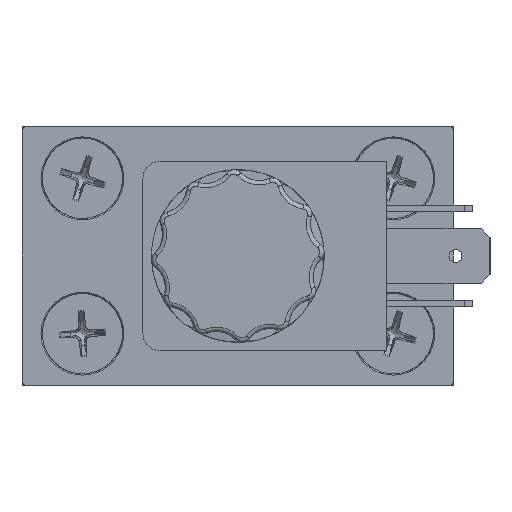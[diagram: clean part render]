
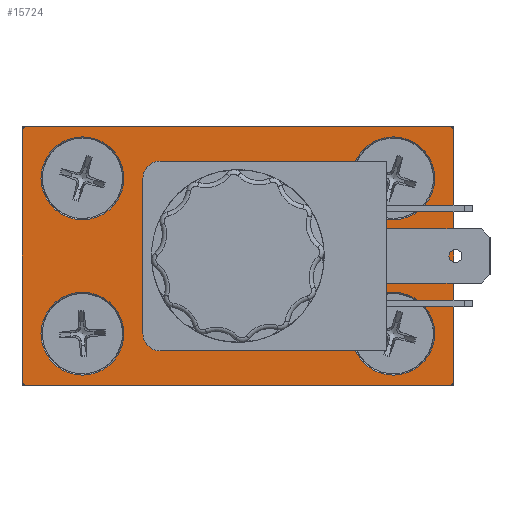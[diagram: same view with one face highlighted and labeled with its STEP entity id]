
A CAD part, left-side view. The second image highlights one B-rep face of the part: STEP entity #15724.
In plain terms, the highlighted planar face has unit normal (-1, 0, 0).
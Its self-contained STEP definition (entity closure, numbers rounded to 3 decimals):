
#158 = CIRCLE ( 'NONE', #37423, 4.8 ) ;
#233 = CIRCLE ( 'NONE', #37425, 4.8 ) ;
#310 = CIRCLE ( 'NONE', #37433, 0.5 ) ;
#325 = CIRCLE ( 'NONE', #37436, 4.8 ) ;
#429 = CIRCLE ( 'NONE', #37438, 0.5 ) ;
#433 = CIRCLE ( 'NONE', #37437, 4.55 ) ;
#470 = LINE ( 'NONE', #1658, #475 ) ;
#475 = VECTOR ( 'NONE', #1659, 1000. ) ;
#517 = CIRCLE ( 'NONE', #37450, 0.5 ) ;
#542 = LINE ( 'NONE', #1742, #544 ) ;
#544 = VECTOR ( 'NONE', #1745, 1000. ) ;
#547 = LINE ( 'NONE', #1781, #550 ) ;
#550 = VECTOR ( 'NONE', #1782, 1000. ) ;
#712 = CIRCLE ( 'NONE', #37461, 4.8 ) ;
#731 = CIRCLE ( 'NONE', #37470, 0.5 ) ;
#888 = LINE ( 'NONE', #2163, #903 ) ;
#903 = VECTOR ( 'NONE', #2164, 1000. ) ;
#1289 = CARTESIAN_POINT ( 'NONE',  ( -60.5, -18., 24. ) ) ;
#1290 = DIRECTION ( 'NONE',  ( 1., 0., 0. ) ) ;
#1291 = DIRECTION ( 'NONE',  ( 0., -1., 0. ) ) ;
#1366 = CARTESIAN_POINT ( 'NONE',  ( -60.5, 18., 24. ) ) ;
#1371 = DIRECTION ( 'NONE',  ( 1., 0., 0. ) ) ;
#1372 = DIRECTION ( 'NONE',  ( 0., -1., 0. ) ) ;
#1453 = CARTESIAN_POINT ( 'NONE',  ( -60.5, 24.5, 29.5 ) ) ;
#1459 = DIRECTION ( 'NONE',  ( 1., 0., 0. ) ) ;
#1460 = DIRECTION ( 'NONE',  ( 0., 0.707, 0.707 ) ) ;
#1477 = CARTESIAN_POINT ( 'NONE',  ( -60.5, -18., 6. ) ) ;
#1480 = DIRECTION ( 'NONE',  ( 1., 0., 0. ) ) ;
#1481 = DIRECTION ( 'NONE',  ( 0., -1., 0. ) ) ;
#1600 = CARTESIAN_POINT ( 'NONE',  ( -60.5, -24.5, 29.5 ) ) ;
#1602 = DIRECTION ( 'NONE',  ( 1., 0., 0. ) ) ;
#1603 = DIRECTION ( 'NONE',  ( 0., -0.707, 0.707 ) ) ;
#1605 = CARTESIAN_POINT ( 'NONE',  ( -60.5, 0., 15. ) ) ;
#1606 = DIRECTION ( 'NONE',  ( 1., 0., 0. ) ) ;
#1607 = DIRECTION ( 'NONE',  ( 0., 1., 0. ) ) ;
#1658 = CARTESIAN_POINT ( 'NONE',  ( -60.5, 25., 0.5 ) ) ;
#1659 = DIRECTION ( 'NONE',  ( 0., 0., 1. ) ) ;
#1695 = CARTESIAN_POINT ( 'NONE',  ( -60.5, 24.5, 0.5 ) ) ;
#1704 = DIRECTION ( 'NONE',  ( 1., 0., 0. ) ) ;
#1705 = DIRECTION ( 'NONE',  ( 0., 0.707, -0.707 ) ) ;
#1742 = CARTESIAN_POINT ( 'NONE',  ( -60.5, 24.5, 30. ) ) ;
#1745 = DIRECTION ( 'NONE',  ( 0., -1., 0. ) ) ;
#1781 = CARTESIAN_POINT ( 'NONE',  ( -60.5, -24.5, 0. ) ) ;
#1782 = DIRECTION ( 'NONE',  ( 0., 1., 0. ) ) ;
#1924 = CARTESIAN_POINT ( 'NONE',  ( -60.5, 18., 6. ) ) ;
#1934 = DIRECTION ( 'NONE',  ( 1., 0., 0. ) ) ;
#1935 = DIRECTION ( 'NONE',  ( 0., -1., 0. ) ) ;
#1956 = CARTESIAN_POINT ( 'NONE',  ( -60.5, -24.5, 0.5 ) ) ;
#1963 = DIRECTION ( 'NONE',  ( 1., 0., 0. ) ) ;
#1964 = DIRECTION ( 'NONE',  ( 0., -0.707, -0.707 ) ) ;
#2163 = CARTESIAN_POINT ( 'NONE',  ( -60.5, -25., 29.5 ) ) ;
#2164 = DIRECTION ( 'NONE',  ( 0., 0., -1. ) ) ;
#3609 = FACE_OUTER_BOUND ( 'NONE', #34425, .T. ) ;
#3610 = FACE_BOUND ( 'NONE', #34612, .T. ) ;
#3615 = FACE_BOUND ( 'NONE', #34609, .T. ) ;
#3616 = FACE_BOUND ( 'NONE', #34619, .T. ) ;
#3618 = FACE_BOUND ( 'NONE', #34617, .T. ) ;
#3620 = FACE_BOUND ( 'NONE', #34615, .T. ) ;
#4063 = CARTESIAN_POINT ( 'NONE',  ( -60.5, 0., 15. ) ) ;
#4064 = PLANE ( 'NONE',  #37579 ) ;
#4073 = DIRECTION ( 'NONE',  ( -1., 0., 0. ) ) ;
#4074 = DIRECTION ( 'NONE',  ( 0., 0.707, 0.707 ) ) ;
#14515 = EDGE_CURVE ( 'NONE', #43091, #43091, #158, .T. ) ;
#14554 = EDGE_CURVE ( 'NONE', #43096, #43096, #233, .T. ) ;
#14595 = EDGE_CURVE ( 'NONE', #36148, #35047, #310, .T. ) ;
#14604 = EDGE_CURVE ( 'NONE', #43100, #43100, #325, .T. ) ;
#14661 = EDGE_CURVE ( 'NONE', #36121, #36123, #429, .T. ) ;
#14663 = EDGE_CURVE ( 'NONE', #43106, #43106, #433, .T. ) ;
#14687 = EDGE_CURVE ( 'NONE', #36141, #36148, #470, .T. ) ;
#14708 = EDGE_CURVE ( 'NONE', #36149, #36141, #517, .T. ) ;
#14726 = EDGE_CURVE ( 'NONE', #35047, #36121, #542, .T. ) ;
#14743 = EDGE_CURVE ( 'NONE', #36151, #36149, #547, .T. ) ;
#14815 = EDGE_CURVE ( 'NONE', #43128, #43128, #712, .T. ) ;
#14827 = EDGE_CURVE ( 'NONE', #36153, #36151, #731, .T. ) ;
#14920 = EDGE_CURVE ( 'NONE', #36123, #36153, #888, .T. ) ;
#15724 = ADVANCED_FACE ( 'NONE', ( #3609, #3616, #3618, #3620, #3610, #3615 ), #4064, .T. ) ;
#31453 = ORIENTED_EDGE ( 'NONE', *, *, #14661, .F. ) ;
#31454 = ORIENTED_EDGE ( 'NONE', *, *, #14726, .F. ) ;
#31455 = ORIENTED_EDGE ( 'NONE', *, *, #14595, .F. ) ;
#31456 = ORIENTED_EDGE ( 'NONE', *, *, #14687, .F. ) ;
#31457 = ORIENTED_EDGE ( 'NONE', *, *, #14708, .F. ) ;
#31458 = ORIENTED_EDGE ( 'NONE', *, *, #14743, .F. ) ;
#31459 = ORIENTED_EDGE ( 'NONE', *, *, #14827, .F. ) ;
#31460 = ORIENTED_EDGE ( 'NONE', *, *, #14920, .F. ) ;
#31461 = ORIENTED_EDGE ( 'NONE', *, *, #14604, .T. ) ;
#31462 = ORIENTED_EDGE ( 'NONE', *, *, #14554, .T. ) ;
#31463 = ORIENTED_EDGE ( 'NONE', *, *, #14515, .T. ) ;
#31464 = ORIENTED_EDGE ( 'NONE', *, *, #14815, .T. ) ;
#31465 = ORIENTED_EDGE ( 'NONE', *, *, #14663, .T. ) ;
#34425 = EDGE_LOOP ( 'NONE', ( #31453, #31454, #31455, #31456, #31457, #31458, #31459, #31460 ) ) ;
#34609 = EDGE_LOOP ( 'NONE', ( #31465 ) ) ;
#34612 = EDGE_LOOP ( 'NONE', ( #31464 ) ) ;
#34615 = EDGE_LOOP ( 'NONE', ( #31463 ) ) ;
#34617 = EDGE_LOOP ( 'NONE', ( #31462 ) ) ;
#34619 = EDGE_LOOP ( 'NONE', ( #31461 ) ) ;
#35047 = VERTEX_POINT ( 'NONE', #40119 ) ;
#36121 = VERTEX_POINT ( 'NONE', #40177 ) ;
#36123 = VERTEX_POINT ( 'NONE', #40178 ) ;
#36141 = VERTEX_POINT ( 'NONE', #40189 ) ;
#36148 = VERTEX_POINT ( 'NONE', #40193 ) ;
#36149 = VERTEX_POINT ( 'NONE', #40194 ) ;
#36151 = VERTEX_POINT ( 'NONE', #40195 ) ;
#36153 = VERTEX_POINT ( 'NONE', #40196 ) ;
#37423 = AXIS2_PLACEMENT_3D ( 'NONE', #1289, #1290, #1291 ) ;
#37425 = AXIS2_PLACEMENT_3D ( 'NONE', #1366, #1371, #1372 ) ;
#37433 = AXIS2_PLACEMENT_3D ( 'NONE', #1453, #1459, #1460 ) ;
#37436 = AXIS2_PLACEMENT_3D ( 'NONE', #1477, #1480, #1481 ) ;
#37437 = AXIS2_PLACEMENT_3D ( 'NONE', #1605, #1606, #1607 ) ;
#37438 = AXIS2_PLACEMENT_3D ( 'NONE', #1600, #1602, #1603 ) ;
#37450 = AXIS2_PLACEMENT_3D ( 'NONE', #1695, #1704, #1705 ) ;
#37461 = AXIS2_PLACEMENT_3D ( 'NONE', #1924, #1934, #1935 ) ;
#37470 = AXIS2_PLACEMENT_3D ( 'NONE', #1956, #1963, #1964 ) ;
#37579 = AXIS2_PLACEMENT_3D ( 'NONE', #4063, #4073, #4074 ) ;
#40119 = CARTESIAN_POINT ( 'NONE',  ( -60.5, 24.5, 30. ) ) ;
#40177 = CARTESIAN_POINT ( 'NONE',  ( -60.5, -24.5, 30. ) ) ;
#40178 = CARTESIAN_POINT ( 'NONE',  ( -60.5, -25., 29.5 ) ) ;
#40189 = CARTESIAN_POINT ( 'NONE',  ( -60.5, 25., 0.5 ) ) ;
#40193 = CARTESIAN_POINT ( 'NONE',  ( -60.5, 25., 29.5 ) ) ;
#40194 = CARTESIAN_POINT ( 'NONE',  ( -60.5, 24.5, 0. ) ) ;
#40195 = CARTESIAN_POINT ( 'NONE',  ( -60.5, -24.5, 0. ) ) ;
#40196 = CARTESIAN_POINT ( 'NONE',  ( -60.5, -25., 0.5 ) ) ;
#43082 = CARTESIAN_POINT ( 'NONE',  ( -60.5, -22.8, 24. ) ) ;
#43091 = VERTEX_POINT ( 'NONE', #43082 ) ;
#43096 = VERTEX_POINT ( 'NONE', #43097 ) ;
#43097 = CARTESIAN_POINT ( 'NONE',  ( -60.5, 13.2, 24. ) ) ;
#43100 = VERTEX_POINT ( 'NONE', #43101 ) ;
#43101 = CARTESIAN_POINT ( 'NONE',  ( -60.5, -22.8, 6. ) ) ;
#43106 = VERTEX_POINT ( 'NONE', #43107 ) ;
#43107 = CARTESIAN_POINT ( 'NONE',  ( -60.5, 4.55, 15. ) ) ;
#43128 = VERTEX_POINT ( 'NONE', #43129 ) ;
#43129 = CARTESIAN_POINT ( 'NONE',  ( -60.5, 13.2, 6. ) ) ;
